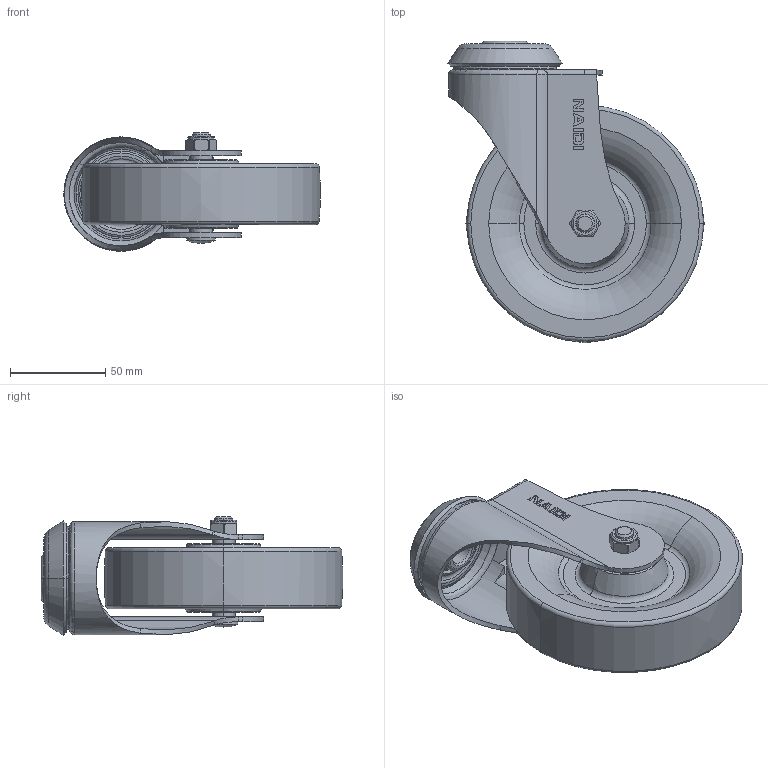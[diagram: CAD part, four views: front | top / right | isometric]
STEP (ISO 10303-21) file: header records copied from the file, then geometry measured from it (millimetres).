
FILE_DESCRIPTION((''),'2;1');
FILE_NAME('B55175_ASM','2024-08-13T',('Lenovo'),(''),'PRO/ENGINEER BY PARAMETRIC TECHNOLOGY CORPORATION, 2010280','PRO/ENGINEER BY PARAMETRIC TECHNOLOGY CORPORATION, 2010280','');
FILE_SCHEMA(('CONFIG_CONTROL_DESIGN'));
Length unit declared in the file: millimetre
Products named in the file (8): B5515-311; 570-03A; B555-986; 5710-058; 500-54; 570-33; 570-34; B55175_ASM
Assembly tree (7 placements, depth 2):
  B55175_ASM
    B5515-311
    570-03A
    B555-986
    5710-058
    500-54
    570-33
    570-34
Bounding box: 134.41 x 157.94 x 62.25 mm (x, y, z)
Volume: 361545.8 mm3; surface area: 89557 mm2
Topology: 7 solids, 7 shells, 280 faces, 645 edges, 393 vertices
Faces by surface type: plane 103, torus 57, cylinder 56, cone 38, bspline 18, extrusion 6, sphere 2
Entity records: 8963 total; most frequent: CARTESIAN_POINT 2411, DIRECTION 1403, ORIENTED_EDGE 1286, EDGE_CURVE 643, AXIS2_PLACEMENT_3D 559, VERTEX_POINT 393, EDGE_LOOP 312, CIRCLE 288
